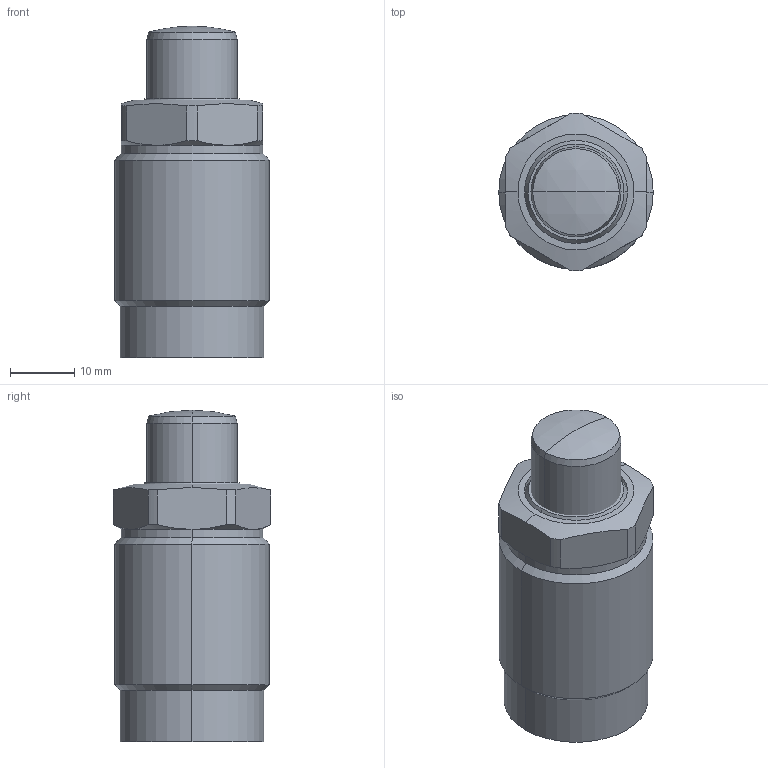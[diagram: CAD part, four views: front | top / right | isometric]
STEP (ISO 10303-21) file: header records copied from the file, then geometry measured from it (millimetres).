
FILE_DESCRIPTION (( 'STEP AP203' ), '1' );
FILE_NAME ('650241-RM.step', '2016-11-02T03:13:59', ( 'wxp' ), ( '' ), 'SwSTEP 2.0', 'SolidWorks 2011', '' );
FILE_SCHEMA (( 'CONFIG_CONTROL_DESIGN' ));
Length unit declared in the file: millimetre
Products named in the file (3): 650241-RM; 葩璃 650241-RM.sldasm-Part-2^650241-RM; 葩璃 650241-RM.sldasm-Part-1^650241-RM
Assembly tree (2 placements, depth 2):
  650241-RM
    葩璃 650241-RM.sldasm-Part-1^650241-RM
    葩璃 650241-RM.sldasm-Part-2^650241-RM
Bounding box: 24 x 24.49 x 51.5 mm (x, y, z)
Volume: 19011.7 mm3; surface area: 4976.7 mm2
Topology: 2 solids, 2 shells, 67 faces, 144 edges, 86 vertices
Faces by surface type: cylinder 26, cone 18, plane 15, torus 6, sphere 2
Entity records: 2167 total; most frequent: CARTESIAN_POINT 396, DIRECTION 344, ORIENTED_EDGE 284, AXIS2_PLACEMENT_3D 150, EDGE_CURVE 142, VERTEX_POINT 86, CIRCLE 78, EDGE_LOOP 74
